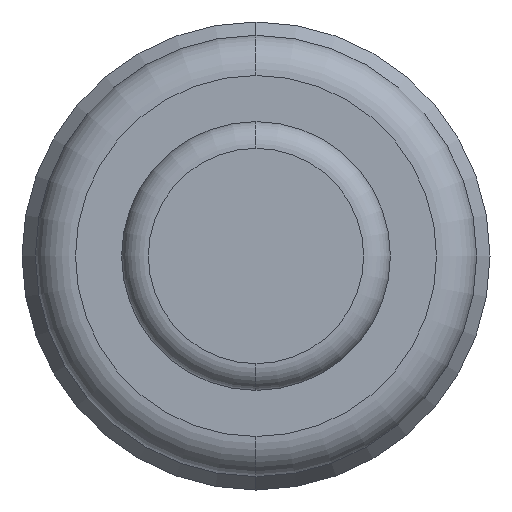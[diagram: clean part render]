
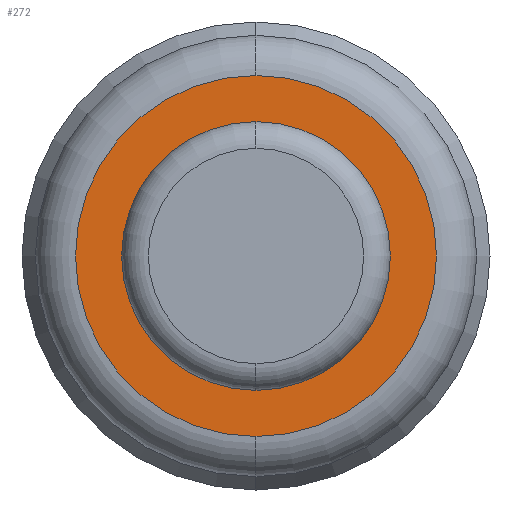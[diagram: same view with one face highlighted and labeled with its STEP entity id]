
A CAD part, left-side view. The second image highlights one B-rep face of the part: STEP entity #272.
In plain terms, the highlighted planar face has unit normal (-1, 0, 0).
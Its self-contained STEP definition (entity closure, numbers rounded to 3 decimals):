
#1=CARTESIAN_POINT('',(-6.43,0.,0.));
#2=DIRECTION('',(1.,0.,0.));
#3=DIRECTION('',(0.,0.,-1.));
#4=AXIS2_PLACEMENT_3D('',#1,#2,#3);
#14=CARTESIAN_POINT('',(-6.43,0.,0.));
#15=DIRECTION('',(-1.,0.,0.));
#16=DIRECTION('',(0.,0.,-1.));
#17=AXIS2_PLACEMENT_3D('',#14,#15,#16);
#49=CARTESIAN_POINT('',(-6.43,0.,0.));
#50=DIRECTION('',(1.,0.,0.));
#51=DIRECTION('',(0.,0.,-1.));
#52=AXIS2_PLACEMENT_3D('',#49,#50,#51);
#54=CARTESIAN_POINT('',(-6.43,0.,0.));
#55=DIRECTION('',(-1.,0.,0.));
#56=DIRECTION('',(0.,0.,-1.));
#57=AXIS2_PLACEMENT_3D('',#54,#55,#56);
#153=CARTESIAN_POINT('',(-6.43,0.,-1.005));
#155=VERTEX_POINT('',#153);
#169=CARTESIAN_POINT('',(-6.43,0.,-1.35));
#170=VERTEX_POINT('',#169);
#171=CARTESIAN_POINT('',(-6.43,0.,1.005));
#173=VERTEX_POINT('',#171);
#187=CARTESIAN_POINT('',(-6.43,0.,1.35));
#188=VERTEX_POINT('',#187);
#257=CARTESIAN_POINT('',(-6.43,0.,0.));
#258=DIRECTION('',(1.,0.,0.));
#259=DIRECTION('',(0.,0.,1.));
#260=AXIS2_PLACEMENT_3D('',#257,#258,#259);
#261=PLANE('',#260);
#263=ORIENTED_EDGE('',*,*,#262,.T.);
#265=ORIENTED_EDGE('',*,*,#264,.F.);
#266=EDGE_LOOP('',(#263,#265));
#267=FACE_OUTER_BOUND('',#266,.F.);
#268=ORIENTED_EDGE('',*,*,#214,.T.);
#269=ORIENTED_EDGE('',*,*,#196,.F.);
#270=EDGE_LOOP('',(#268,#269));
#271=FACE_BOUND('',#270,.F.);
#272=ADVANCED_FACE('',(#267,#271),#261,.F.);
#5=CIRCLE('',#4,1.005);
#18=CIRCLE('',#17,1.005);
#53=CIRCLE('',#52,1.35);
#58=CIRCLE('',#57,1.35);
#196=EDGE_CURVE('',#155,#173,#5,.T.);
#214=EDGE_CURVE('',#155,#173,#18,.T.);
#262=EDGE_CURVE('',#170,#188,#53,.T.);
#264=EDGE_CURVE('',#170,#188,#58,.T.);
